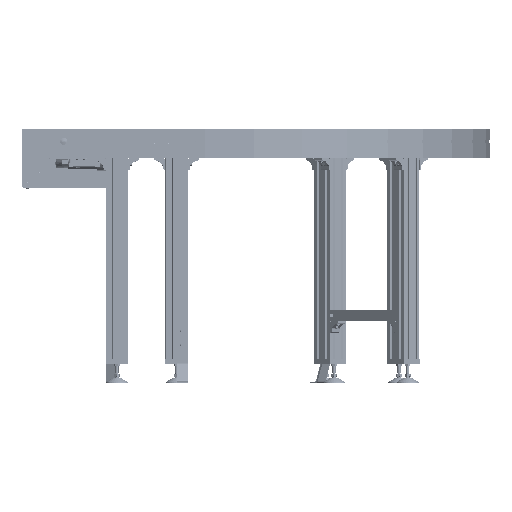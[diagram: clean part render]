
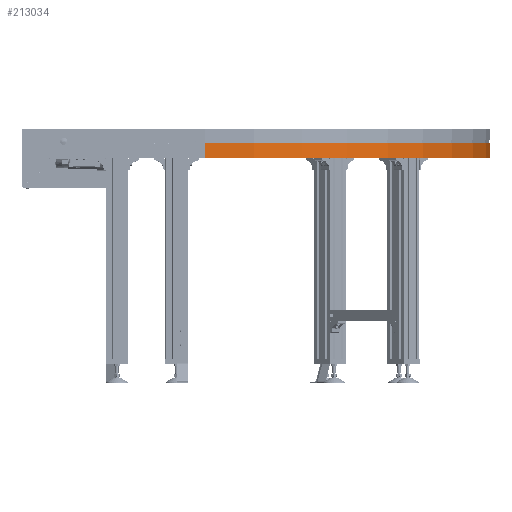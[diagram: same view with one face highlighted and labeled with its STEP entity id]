
A CAD part, front view. The second image highlights one B-rep face of the part: STEP entity #213034.
In plain terms, the highlighted cylindrical face has radius 1015 mm (diameter 2030 mm), a partial arc.
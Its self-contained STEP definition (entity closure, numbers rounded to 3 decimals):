
#21221=LINE('',#353849,#40967);
#21263=LINE('',#354004,#41009);
#21264=LINE('',#354007,#41010);
#21464=LINE('',#354637,#41210);
#40967=VECTOR('',#285241,4.45);
#41009=VECTOR('',#285413,4.45);
#41010=VECTOR('',#285416,49.);
#41210=VECTOR('',#286196,49.);
#51468=CYLINDRICAL_SURFACE('',#231150,1015.);
#63452=FACE_OUTER_BOUND('',#75824,.T.);
#75824=EDGE_LOOP('',(#187837,#187838,#187839,#187840,#187841,#187842));
#83857=CIRCLE('',#231148,1015.);
#83859=CIRCLE('',#231151,1015.);
#91772=VERTEX_POINT('',#315523);
#102308=VERTEX_POINT('',#353831);
#102312=VERTEX_POINT('',#353840);
#102358=VERTEX_POINT('',#353986);
#102362=VERTEX_POINT('',#354006);
#102502=VERTEX_POINT('',#354632);
#130890=EDGE_CURVE('',#102312,#102308,#21221,.T.);
#130962=EDGE_CURVE('',#102358,#91772,#21263,.T.);
#130963=EDGE_CURVE('',#102362,#102358,#21264,.T.);
#131289=EDGE_CURVE('',#102502,#102362,#83857,.T.);
#131291=EDGE_CURVE('',#102308,#91772,#83859,.T.);
#131292=EDGE_CURVE('',#102502,#102312,#21464,.T.);
#187837=ORIENTED_EDGE('',*,*,#130963,.T.);
#187838=ORIENTED_EDGE('',*,*,#130962,.T.);
#187839=ORIENTED_EDGE('',*,*,#131291,.F.);
#187840=ORIENTED_EDGE('',*,*,#130890,.F.);
#187841=ORIENTED_EDGE('',*,*,#131292,.F.);
#187842=ORIENTED_EDGE('',*,*,#131289,.T.);
#213034=ADVANCED_FACE('',(#63452),#51468,.T.);
#231148=AXIS2_PLACEMENT_3D('',#354633,#286188,#286189);
#231150=AXIS2_PLACEMENT_3D('',#354635,#286192,#286193);
#231151=AXIS2_PLACEMENT_3D('',#354636,#286194,#286195);
#285241=DIRECTION('',(0.,0.,1.));
#285413=DIRECTION('',(0.,0.,1.));
#285416=DIRECTION('',(0.,0.,1.));
#286188=DIRECTION('center_axis',(0.,0.,
1.));
#286189=DIRECTION('ref_axis',(0.,-1.,0.));
#286192=DIRECTION('center_axis',(0.,0.,
1.));
#286193=DIRECTION('ref_axis',(0.,-1.,0.));
#286194=DIRECTION('center_axis',(0.,0.,
1.));
#286195=DIRECTION('ref_axis',(0.,-1.,0.));
#286196=DIRECTION('',(0.,0.,1.));
#315523=CARTESIAN_POINT('',(556.,1822.5,54.45));
#353831=CARTESIAN_POINT('',(556.,-207.5,54.45));
#353840=CARTESIAN_POINT('',(556.,-207.5,50.));
#353849=CARTESIAN_POINT('',(556.,-207.5,1.));
#353986=CARTESIAN_POINT('',(556.,1822.5,50.));
#354004=CARTESIAN_POINT('',(556.,1822.5,1.));
#354006=CARTESIAN_POINT('',(556.,1822.5,1.));
#354007=CARTESIAN_POINT('',(556.,1822.5,1.));
#354632=CARTESIAN_POINT('',(556.,-207.5,1.));
#354633=CARTESIAN_POINT('Origin',(556.,807.5,1.));
#354635=CARTESIAN_POINT('Origin',(556.,807.5,27.725));
#354636=CARTESIAN_POINT('Origin',(556.,807.5,54.45));
#354637=CARTESIAN_POINT('',(556.,-207.5,1.));
